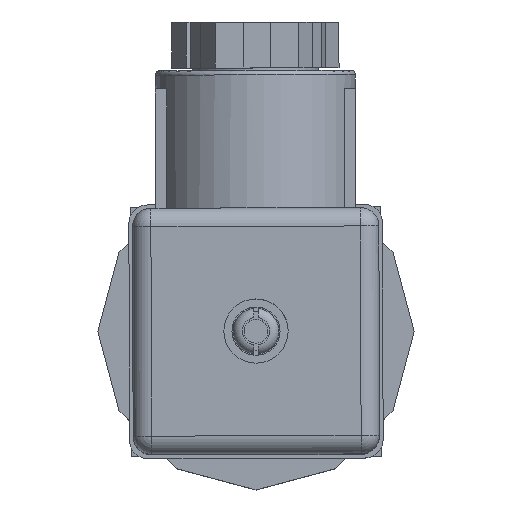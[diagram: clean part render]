
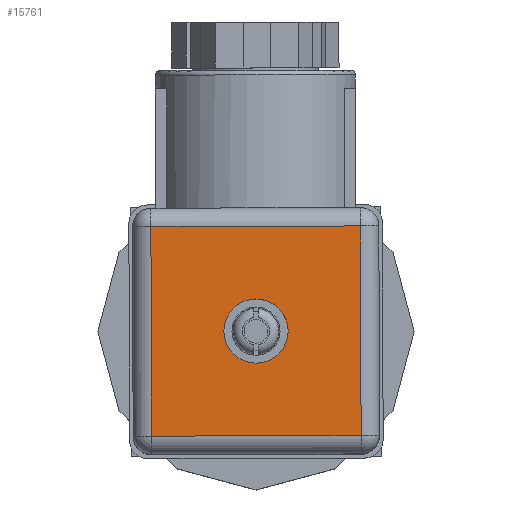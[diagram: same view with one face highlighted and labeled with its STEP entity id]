
A CAD part, top view. The second image highlights one B-rep face of the part: STEP entity #15761.
In plain terms, the highlighted planar face has unit normal (0, 0, 1) as drawn and (0, 0, -1) by its records, which use the part's own axes.
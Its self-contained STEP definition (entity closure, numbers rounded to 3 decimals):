
#14563=CARTESIAN_POINT('',(-3.5,0.,0.0));
#14564=VERTEX_POINT('',#14563);
#14565=CARTESIAN_POINT('',(0.0,0.0,0.0));
#14566=DIRECTION('',(0.0,0.0,1.0));
#14567=DIRECTION('',(1.0,0.0,0.0));
#14568=AXIS2_PLACEMENT_3D('',#14565,#14566,#14567);
#14569=CIRCLE('',#14568,3.5);
#14570=EDGE_CURVE('',#14564,#14564,#14569,.T.);
#15459=CARTESIAN_POINT('',(-11.425,-11.425,0.0));
#15460=VERTEX_POINT('',#15459);
#15468=CARTESIAN_POINT('',(11.425,-11.425,0.0));
#15469=VERTEX_POINT('',#15468);
#15470=CARTESIAN_POINT('',(-11.425,-11.425,0.0));
#15471=DIRECTION('',(1.0,0.0,0.0));
#15472=VECTOR('',#15471,22.85);
#15473=LINE('',#15470,#15472);
#15474=EDGE_CURVE('',#15460,#15469,#15473,.T.);
#15508=CARTESIAN_POINT('',(11.425,11.425,0.0));
#15509=VERTEX_POINT('',#15508);
#15510=CARTESIAN_POINT('',(11.425,-11.425,0.0));
#15511=DIRECTION('',(0.0,1.0,0.0));
#15512=VECTOR('',#15511,22.85);
#15513=LINE('',#15510,#15512);
#15514=EDGE_CURVE('',#15469,#15509,#15513,.T.);
#15548=CARTESIAN_POINT('',(-11.425,11.425,0.0));
#15549=VERTEX_POINT('',#15548);
#15550=CARTESIAN_POINT('',(11.425,11.425,0.0));
#15551=DIRECTION('',(-1.0,0.0,0.0));
#15552=VECTOR('',#15551,22.85);
#15553=LINE('',#15550,#15552);
#15554=EDGE_CURVE('',#15509,#15549,#15553,.T.);
#15603=CARTESIAN_POINT('',(-11.425,11.425,0.0));
#15604=DIRECTION('',(0.0,-1.0,0.0));
#15605=VECTOR('',#15604,22.85);
#15606=LINE('',#15603,#15605);
#15607=EDGE_CURVE('',#15549,#15460,#15606,.T.);
#15747=CARTESIAN_POINT('',(0.,0.,0.0));
#15748=DIRECTION('',(0.0,0.0,1.0));
#15749=DIRECTION('',(1.0,0.0,0.0));
#15750=AXIS2_PLACEMENT_3D('',#15747,#15748,#15749);
#15751=PLANE('',#15750);
#15752=ORIENTED_EDGE('',*,*,#15474,.F.);
#15753=ORIENTED_EDGE('',*,*,#15607,.F.);
#15754=ORIENTED_EDGE('',*,*,#15554,.F.);
#15755=ORIENTED_EDGE('',*,*,#15514,.F.);
#15756=EDGE_LOOP('',(#15752,#15753,#15754,#15755));
#15757=FACE_OUTER_BOUND('',#15756,.T.);
#15758=ORIENTED_EDGE('',*,*,#14570,.T.);
#15759=EDGE_LOOP('',(#15758));
#15760=FACE_BOUND('',#15759,.T.);
#15761=ADVANCED_FACE('',(#15757,#15760),#15751,.F.);
